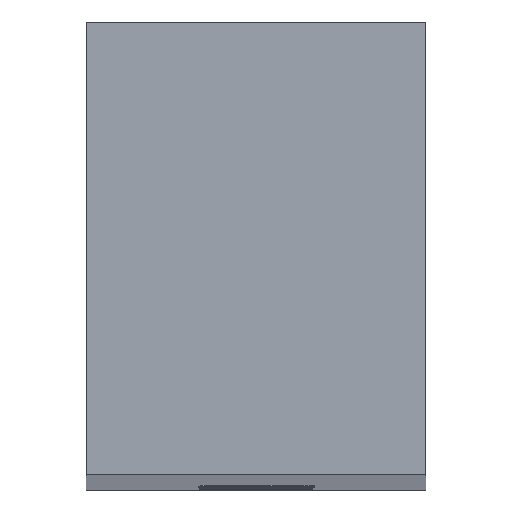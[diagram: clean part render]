
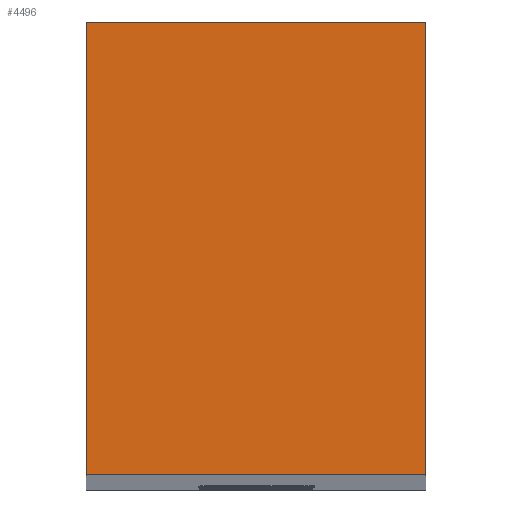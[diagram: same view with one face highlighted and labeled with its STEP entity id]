
A CAD part, top view. The second image highlights one B-rep face of the part: STEP entity #4496.
In plain terms, the highlighted planar face has unit normal (0, 0, 1).
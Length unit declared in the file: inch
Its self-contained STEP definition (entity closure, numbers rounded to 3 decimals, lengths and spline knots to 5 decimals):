
#131 = CARTESIAN_POINT ( 'NONE',  ( 8.19587, -7.0689, 11.41732 ) ) ;
#372 = EDGE_CURVE ( 'NONE', #4810, #1605, #6389, .T. ) ;
#696 = DIRECTION ( 'NONE',  ( -1., 0., 0. ) ) ;
#796 = CARTESIAN_POINT ( 'NONE',  ( 7.95276, -7.72441, 11.41732 ) ) ;
#845 = VERTEX_POINT ( 'NONE', #1909 ) ;
#1210 = ORIENTED_EDGE ( 'NONE', *, *, #1382, .F. ) ;
#1357 = LINE ( 'NONE', #131, #4916 ) ;
#1382 = EDGE_CURVE ( 'NONE', #1605, #845, #5304, .T. ) ;
#1419 = DIRECTION ( 'NONE',  ( 0., 0., -1. ) ) ;
#1605 = VERTEX_POINT ( 'NONE', #6286 ) ;
#1616 = DIRECTION ( 'NONE',  ( 1., 0., 0. ) ) ;
#1909 = CARTESIAN_POINT ( 'NONE',  ( 8.25837, -6.5689, 11.41732 ) ) ;
#1969 = PLANE ( 'NONE',  #3928 ) ;
#2001 = FACE_OUTER_BOUND ( 'NONE', #3504, .T. ) ;
#2157 = VECTOR ( 'NONE', #3051, 39.37008 ) ;
#2422 = LINE ( 'NONE', #6607, #2157 ) ;
#2685 = VECTOR ( 'NONE', #3385, 39.37008 ) ;
#2753 = CARTESIAN_POINT ( 'NONE',  ( 7.88337, -6.9439, 11.41732 ) ) ;
#2918 = VERTEX_POINT ( 'NONE', #6960 ) ;
#3051 = DIRECTION ( 'NONE',  ( 0., -1., 0. ) ) ;
#3183 = DIRECTION ( 'NONE',  ( -1., 0., 0. ) ) ;
#3286 = EDGE_CURVE ( 'NONE', #845, #2918, #2422, .T. ) ;
#3385 = DIRECTION ( 'NONE',  ( 0., 1., 0. ) ) ;
#3504 = EDGE_LOOP ( 'NONE', ( #4865, #5052, #4458, #1210 ) ) ;
#3553 = VECTOR ( 'NONE', #1616, 39.37008 ) ;
#3928 = AXIS2_PLACEMENT_3D ( 'NONE', #796, #1419, #3183 ) ;
#4458 = ORIENTED_EDGE ( 'NONE', *, *, #3286, .F. ) ;
#4496 = ADVANCED_FACE ( 'NONE', ( #2001 ), #1969, .F. ) ;
#4609 = CARTESIAN_POINT ( 'NONE',  ( 7.88337, -7.0689, 11.41732 ) ) ;
#4810 = VERTEX_POINT ( 'NONE', #4609 ) ;
#4865 = ORIENTED_EDGE ( 'NONE', *, *, #372, .F. ) ;
#4916 = VECTOR ( 'NONE', #696, 39.37008 ) ;
#5052 = ORIENTED_EDGE ( 'NONE', *, *, #7058, .F. ) ;
#5304 = LINE ( 'NONE', #7055, #3553 ) ;
#6286 = CARTESIAN_POINT ( 'NONE',  ( 7.88337, -6.5689, 11.41732 ) ) ;
#6389 = LINE ( 'NONE', #2753, #2685 ) ;
#6607 = CARTESIAN_POINT ( 'NONE',  ( 8.25837, -7.72441, 11.41732 ) ) ;
#6960 = CARTESIAN_POINT ( 'NONE',  ( 8.25837, -7.0689, 11.41732 ) ) ;
#7055 = CARTESIAN_POINT ( 'NONE',  ( 7.95276, -6.5689, 11.41732 ) ) ;
#7058 = EDGE_CURVE ( 'NONE', #2918, #4810, #1357, .T. ) ;
